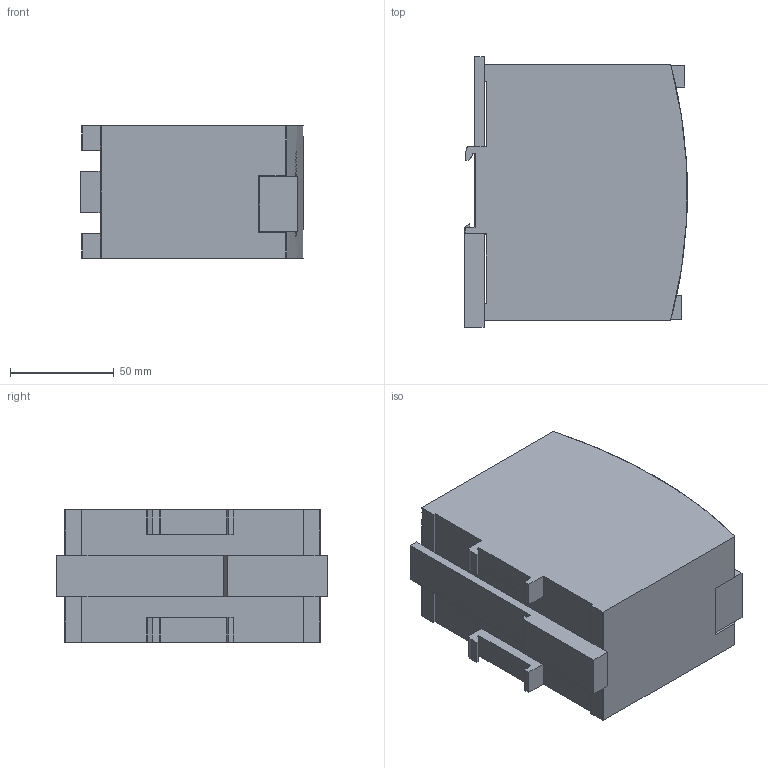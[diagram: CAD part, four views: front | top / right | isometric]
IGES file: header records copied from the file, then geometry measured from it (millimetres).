
Start section: SolidWorks IGES FILE using analytic representation for surfaces
Global section: file name: C:\Vertrieb\SL5_102\SL5_102.IGS; native system: SolidWorks 2004 by SolidWorks Corporation; preprocessor: Version 5.3; author: heinrij; date: 040211.143155; units: millimetre
Bounding box: 107.63 x 130.5 x 64 mm (x, y, z)
Surface area: 64983.6 mm2 (no closed solid volume)
Topology: 0 solids, 0 shells, 674 faces, 6054 edges, 6054 vertices
Faces by surface type: bspline 633, revolution 41
